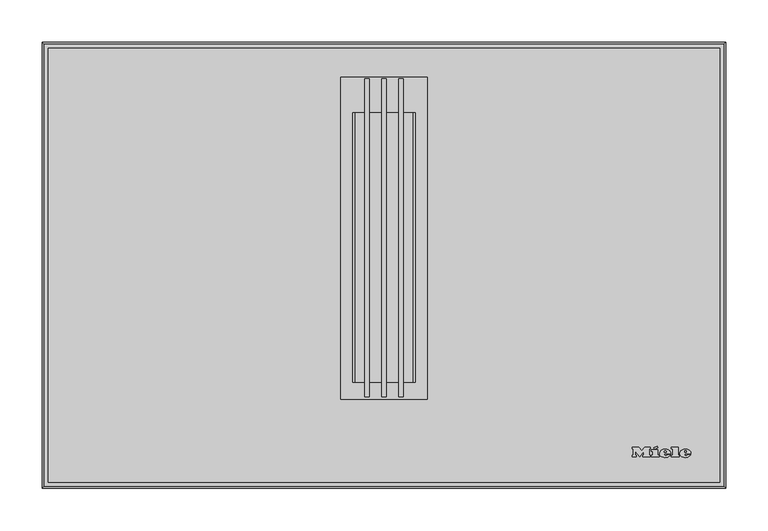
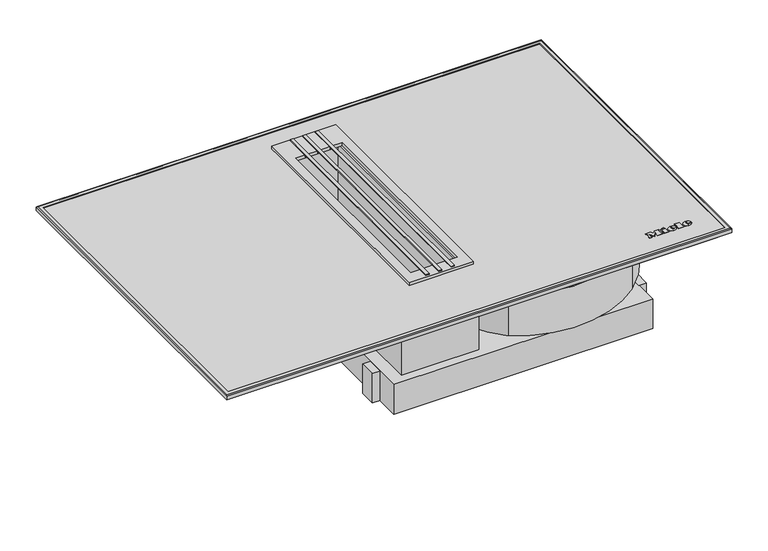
"""IFC4 building model written with IfcOpenShell, lengths in millimetres: proxy geometry, 11325850_RU_KMDA7633FR : 26763301_RU_11325850_KMDA7633FR."""

import ifcopenshell
import ifcopenshell.guid

model = None  # the IFC model being written
_history = None  # IfcOwnerHistory: only IFC2X3 demands one
_inside = {}  # id of a spatial element -> (the spatial element, [elements in it])
_under = {}  # id of a project, library or spatial element -> (it, [spatial elements below it])
_declared = {}  # id of a project -> (the project, [libraries it declares])
_typed = {}  # id of a type object -> (the type object, [elements of that type])
_made_of = {}  # id of a material, layer set ... -> (it, [elements and type objects made of it])


def new_model(schema):
    """Start an empty IFC model of exactly this schema.

    Asked for "IFC4X3", IfcOpenShell would pick the latest addendum, in which some entities
    have other attributes; the version numbers below select the first issue.
    IFC2X3 requires an IfcOwnerHistory on every rooted entity: one is made here for all.
    """
    global model, _history
    if schema == "IFC4X3":
        model = ifcopenshell.file(schema_version=(4, 3, 0, 0))
    else:
        model = ifcopenshell.file(schema=schema)
    _inside.clear()
    _under.clear()
    _declared.clear()
    _typed.clear()
    _made_of.clear()
    _history = None
    if model.schema == "IFC2X3":
        org = make("IfcOrganization", Name="unknown")
        user = make(
            "IfcPersonAndOrganization",
            ThePerson=make("IfcPerson", FamilyName="unknown"),
            TheOrganization=org,
        )
        app = make(
            "IfcApplication",
            ApplicationDeveloper=org,
            Version="unknown",
            ApplicationFullName="unknown",
            ApplicationIdentifier="unknown",
        )
        _history = make(
            "IfcOwnerHistory",
            OwningUser=user,
            OwningApplication=app,
            ChangeAction="ADDED",
            CreationDate=0,
        )
    return model


def make(cls, **values):
    """One entity of the class cls with the attributes given. An attribute that is None is left unset."""
    return model.create_entity(
        cls, **{name: value for name, value in values.items() if value is not None}
    )


def rooted(cls, **values):
    """An entity with a GlobalId (a new one), such as an element, a storey or a relation."""
    return make(cls, GlobalId=ifcopenshell.guid.new(), OwnerHistory=_history, **values)


def si_unit(unit_type, name, prefix=None):
    """IfcSIUnit, for example si_unit("LENGTHUNIT", "METRE", prefix="MILLI")."""
    return make("IfcSIUnit", UnitType=unit_type, Prefix=prefix, Name=name)


def assignment(units):
    """IfcUnitAssignment: the units of a project."""
    return None if units is None else make("IfcUnitAssignment", Units=units)


def point(xyz):
    """IfcCartesianPoint."""
    return None if xyz is None else make("IfcCartesianPoint", Coordinates=xyz)


def direction(xyz):
    """IfcDirection."""
    return None if xyz is None else make("IfcDirection", DirectionRatios=xyz)


def frame(location, z_axis=None, x_axis=None):
    """IfcAxis2Placement3D, a coordinate frame: its origin and axes. An axis left out is left unset."""
    return make(
        "IfcAxis2Placement3D",
        Location=point(location),
        Axis=direction(z_axis),
        RefDirection=direction(x_axis),
    )


def frame_2d(location, x_axis=None):
    """IfcAxis2Placement2D, a coordinate frame in the plane: its origin and x axis."""
    return make(
        "IfcAxis2Placement2D", Location=point(location), RefDirection=direction(x_axis)
    )


def origin():
    """The frame at (0, 0, 0) with its axes left unset."""
    return frame((0.0, 0.0, 0.0))


def origin_with_axes():
    """The frame at (0, 0, 0) with the z axis (0, 0, 1) and the x axis (1, 0, 0) written out."""
    return frame((0.0, 0.0, 0.0), z_axis=(0.0, 0.0, 1.0), x_axis=(1.0, 0.0, 0.0))


def place(relative_to, where):
    """IfcLocalPlacement: puts the frame where relative to a parent placement (None: the world)."""
    return make(
        "IfcLocalPlacement", PlacementRelTo=relative_to, RelativePlacement=where
    )


def context(
    kind, dimensions, precision=None, world=None, true_north=None, identifier=None
):
    """IfcGeometricRepresentationContext, for example the 3D "Model" context."""
    return make(
        "IfcGeometricRepresentationContext",
        ContextIdentifier=identifier,
        ContextType=kind,
        CoordinateSpaceDimension=dimensions,
        Precision=precision,
        WorldCoordinateSystem=world,
        TrueNorth=true_north,
    )


def project(units=None, contexts=None):
    """IfcProject with its units and contexts."""
    return rooted(
        "IfcProject",
        Name="project",
        RepresentationContexts=contexts,
        UnitsInContext=assignment(units),
    )


def spatial(cls, under=None, at=None, **own):
    """A site, building, storey or space (cls), placed at a placement, below another one or the project."""
    s = rooted(cls, ObjectPlacement=at, **own)
    if under is not None:
        _under.setdefault(under.id(), (under, []))[1].append(s)
    return s


def polyline(points):
    """IfcPolyline through the points."""
    return make("IfcPolyline", Points=[point(p) for p in points])


def circle_curve(where, radius):
    """IfcCircle in the frame where."""
    return make("IfcCircle", Position=where, Radius=radius)


def ellipse_curve(where, semi_axis1, semi_axis2):
    """IfcEllipse in the frame where."""
    return make(
        "IfcEllipse", Position=where, SemiAxis1=semi_axis1, SemiAxis2=semi_axis2
    )


def trimmed(basis, trim1, trim2, sense, master):
    """IfcTrimmedCurve: the piece of a basis curve between two trims."""
    return make(
        "IfcTrimmedCurve",
        BasisCurve=basis,
        Trim1=trim1,
        Trim2=trim2,
        SenseAgreement=sense,
        MasterRepresentation=master,
    )


def segment(curve, same_sense, transition):
    """IfcCompositeCurveSegment."""
    return make(
        "IfcCompositeCurveSegment",
        Transition=transition,
        SameSense=same_sense,
        ParentCurve=curve,
    )


def composite_curve(segments, self_intersect=None):
    """IfcCompositeCurve: segments joined end to end."""
    return make("IfcCompositeCurve", Segments=segments, SelfIntersect=self_intersect)


def outline(outer, holes=None, kind="AREA"):
    """IfcArbitraryClosedProfileDef: a profile drawn as a closed curve; with holes, ...WithVoids."""
    if holes is None:
        return make("IfcArbitraryClosedProfileDef", ProfileType=kind, OuterCurve=outer)
    return make(
        "IfcArbitraryProfileDefWithVoids",
        ProfileType=kind,
        OuterCurve=outer,
        InnerCurves=holes,
    )


def extrude(swept, where, along, depth):
    """IfcExtrudedAreaSolid: the profile swept, set in the frame where, extruded along a direction by depth."""
    return make(
        "IfcExtrudedAreaSolid",
        SweptArea=swept,
        Position=where,
        ExtrudedDirection=direction(along),
        Depth=depth,
    )


def faces_of(points, faces, orient=None, outer=None):
    """IfcFace entities. A face is a list of loops; a loop is a list of indices into points, from 0.

    orient and outer hold one flag for each loop. By default every Orientation is true, the
    first loop of a face is its IfcFaceOuterBound and the others are IfcFaceBound.
    """
    made = []
    for i, loops in enumerate(faces):
        bounds = []
        for j, loop in enumerate(loops):
            is_outer = j == 0 if outer is None else outer[i][j]
            bounds.append(
                make(
                    "IfcFaceOuterBound" if is_outer else "IfcFaceBound",
                    Bound=make("IfcPolyLoop", Polygon=[points[k] for k in loop]),
                    Orientation=True if orient is None else orient[i][j],
                )
            )
        made.append(make("IfcFace", Bounds=bounds))
    return made


def faceted_brep(points, faces, orient=None, outer=None, voids=None):
    """IfcFacetedBrep: a solid bounded by flat faces; with voids (closed shells), ...WithVoids."""
    shared = [point(p) for p in points]
    hull = make("IfcClosedShell", CfsFaces=faces_of(shared, faces, orient, outer))
    if voids is None:
        return make("IfcFacetedBrep", Outer=hull)
    return make(
        "IfcFacetedBrepWithVoids",
        Outer=hull,
        Voids=[
            make(cls, CfsFaces=faces_of(shared, fs, o, b)) for cls, fs, o, b in voids
        ],
    )


def shape(context_of_items, identifier, shape_type, items):
    """IfcShapeRepresentation: the items that make up one representation, for example the "Body"."""
    return make(
        "IfcShapeRepresentation",
        ContextOfItems=context_of_items,
        RepresentationIdentifier=identifier,
        RepresentationType=shape_type,
        Items=items,
    )


def source(mapping_origin, context_of_items, identifier, shape_type, items):
    """IfcRepresentationMap: a shape defined once, which mapped items show again and again."""
    return make(
        "IfcRepresentationMap",
        MappingOrigin=mapping_origin,
        MappedRepresentation=shape(context_of_items, identifier, shape_type, items),
    )


def transform(
    local_origin,
    x_axis=None,
    y_axis=None,
    z_axis=None,
    scale=None,
    scale2=None,
    scale3=None,
    uniform=True,
):
    """IfcCartesianTransformationOperator3D, or its non-uniform kind. x_axis, y_axis, z_axis: its Axis1, 2, 3."""
    if uniform:
        return make(
            "IfcCartesianTransformationOperator3D",
            Axis1=direction(x_axis),
            Axis2=direction(y_axis),
            LocalOrigin=point(local_origin),
            Scale=scale,
            Axis3=direction(z_axis),
        )
    return make(
        "IfcCartesianTransformationOperator3DnonUniform",
        Axis1=direction(x_axis),
        Axis2=direction(y_axis),
        LocalOrigin=point(local_origin),
        Scale=scale,
        Axis3=direction(z_axis),
        Scale2=scale2,
        Scale3=scale3,
    )


def mapped(mapping_source, mapping_target):
    """IfcMappedItem: shows the shape of a source again, moved by a transform."""
    return make(
        "IfcMappedItem", MappingSource=mapping_source, MappingTarget=mapping_target
    )


def made_of(thing, what):
    """Note that an element or type object is made of a material, layer set ...; save() writes the relation."""
    if what is not None:
        _made_of.setdefault(what.id(), (what, []))[1].append(thing)
    return thing


def element(
    cls,
    number,
    at=None,
    inside=None,
    cuts=None,
    type_object=None,
    material=None,
    context=None,
    identifier="Body",
    shape_type=None,
    held_by="IfcProductDefinitionShape",
    body=None,
    shapes=None,
    **own,
):
    """One element of the class cls, such as IfcWall. Its Tag is "e" and its number.

    at: its placement. inside: the storey or other place that contains it. cuts: it is an
    opening in that element (IfcRelVoidsElement). A single representation is given by context,
    identifier, shape_type and body (its items); several are given by shapes. held_by: the class
    of the entity that holds the representations. save() writes the other relations.
    """
    e = rooted(cls, Tag="e%d" % number, ObjectPlacement=at, **own)
    if body is not None:
        shapes = [shape(context, identifier, shape_type, body)]
    if shapes is not None:
        e.Representation = make(held_by, Representations=shapes)
    if inside is not None:
        _inside.setdefault(inside.id(), (inside, []))[1].append(e)
    if cuts is not None:
        rooted(
            "IfcRelVoidsElement", RelatingBuildingElement=cuts, RelatedOpeningElement=e
        )
    if type_object is not None:
        _typed.setdefault(type_object.id(), (type_object, []))[1].append(e)
    return made_of(e, material)


def aggregate(whole, parts):
    """IfcRelAggregates: a whole, such as a stair, and the parts it consists of."""
    return rooted("IfcRelAggregates", RelatingObject=whole, RelatedObjects=parts)


def save(model, path):
    """Write the relations noted so far, then the file.

    IfcRelAggregates (storeys below a building ...), IfcRelContainedInSpatialStructure (elements
    in a storey), IfcRelDefinesByType, IfcRelAssociatesMaterial and IfcRelDeclares: one each for
    every whole, place, type object, material and project.
    """
    for whole, parts in _under.values():
        aggregate(whole, parts)
    for where, things in _inside.values():
        rooted(
            "IfcRelContainedInSpatialStructure",
            RelatedElements=things,
            RelatingStructure=where,
        )
    for kind, things in _typed.values():
        rooted("IfcRelDefinesByType", RelatedObjects=things, RelatingType=kind)
    for what, things in _made_of.values():
        rooted("IfcRelAssociatesMaterial", RelatedObjects=things, RelatingMaterial=what)
    for by, libraries in _declared.values():
        rooted("IfcRelDeclares", RelatingContext=by, RelatedDefinitions=libraries)
    model.write(path)


def plane_surface(at):
    """IfcPlane: the flat surface through the origin of the frame at, square to its z axis."""
    return make("IfcPlane", Position=at)


def cylinder_surface(at, radius):
    """IfcCylindricalSurface: all points at the distance radius from the z axis of the frame at."""
    return make("IfcCylindricalSurface", Position=at, Radius=radius)


def revolved_surface(curve, axis_point, axis_direction):
    """IfcSurfaceOfRevolution: the curve turned about the line through axis_point along axis_direction."""
    return make(
        "IfcSurfaceOfRevolution",
        SweptCurve=make("IfcArbitraryOpenProfileDef", ProfileType="CURVE", Curve=curve),
        AxisPosition=make("IfcAxis1Placement", Location=point(axis_point), Axis=direction(axis_direction)),
    )


def extruded_surface(curve, direction_of_extrusion, depth):
    """IfcSurfaceOfLinearExtrusion: the curve pushed along a direction by depth."""
    return make(
        "IfcSurfaceOfLinearExtrusion",
        SweptCurve=make("IfcArbitraryOpenProfileDef", ProfileType="CURVE", Curve=curve),
        ExtrudedDirection=direction(direction_of_extrusion),
        Depth=depth,
    )


def advanced_brep(points, edges, surfaces, faces):
    """IfcAdvancedBrep: a solid bounded by faces that lie on surfaces and meet in shared edges.

    An edge is (start, end): straight between two places in points (the first is 0);
    or (start, end, curve); or (start, end, curve, False) where it runs against its curve.
    A face is (place in surfaces, loops), or (place, loops, False) where it looks against
    its surface's normal. A loop lists edges by number (the first is 1), with a minus sign
    where the edge is run from its end to its start. The first loop is the outer one.
    """
    corners = [point(p) for p in points]
    vertices = [make("IfcVertexPoint", VertexGeometry=c) for c in corners]
    made = []
    for start, end, *more in edges:
        made.append(
            make(
                "IfcEdgeCurve",
                EdgeStart=vertices[start],
                EdgeEnd=vertices[end],
                EdgeGeometry=more[0] if more else make("IfcPolyline", Points=[corners[start], corners[end]]),
                SameSense=more[1] if len(more) > 1 else True,
            )
        )
    hull = []
    for where, loops, *sense in faces:
        bounds = []
        for j, loop in enumerate(loops):
            ring = [make("IfcOrientedEdge", EdgeElement=made[abs(k) - 1], Orientation=k > 0) for k in loop]
            bounds.append(
                make(
                    "IfcFaceOuterBound" if j == 0 else "IfcFaceBound",
                    Bound=make("IfcEdgeLoop", EdgeList=ring),
                    Orientation=True,
                )
            )
        hull.append(make("IfcAdvancedFace", Bounds=bounds, FaceSurface=surfaces[where], SameSense=sense[0] if sense else True))
    return make("IfcAdvancedBrep", Outer=make("IfcClosedShell", CfsFaces=hull))


def specialty_equipment_09bc2874(model_context):
    return source(origin(), model_context, "Body", "SolidModel", [
        extrude(outline(polyline([(343.0, 159.0), (343.0, 132.0), (331.0, 132.0), (331.0, 159.0), (343.0, 159.0)])), frame((0.0, 0.0, -194.0), z_axis=(0.0, 0.0, 1.0), x_axis=(1.0, 0.0, 0.0)), (0.0, 0.0, 1.0), 50.0),
        extrude(outline(polyline([(343.0, 299.0), (343.0, 272.0), (331.0, 272.0), (331.0, 299.0), (343.0, 299.0)])), frame((0.0, 0.0, -194.0), z_axis=(0.0, 0.0, 1.0), x_axis=(1.0, 0.0, 0.0)), (0.0, 0.0, 1.0), 50.0),
        extrude(outline(polyline([(-94.0, 132.0), (-94.0, 159.0), (-82.0, 159.0), (-82.0, 132.0), (-94.0, 132.0)])), frame((0.0, 0.0, -194.0), z_axis=(0.0, 0.0, 1.0), x_axis=(1.0, 0.0, 0.0)), (0.0, 0.0, 1.0), 50.0),
        extrude(outline(polyline([(-94.0, 412.0), (-94.0, 439.0), (-82.0, 439.0), (-82.0, 412.0), (-94.0, 412.0)])), frame((0.0, 0.0, -194.0), z_axis=(0.0, 0.0, 1.0), x_axis=(1.0, 0.0, 0.0)), (0.0, 0.0, 1.0), 50.0),
        extrude(outline(composite_curve([segment(trimmed(circle_curve(frame_2d((196.0, 245.0)), 72.0), [point((196.0, 317.0))], [point((196.0, 173.0))], False, "CARTESIAN"), True, "CONTINUOUS"), segment(trimmed(circle_curve(frame_2d((196.0, 245.0)), 72.0), [point((196.0, 173.0))], [point((196.0, 317.0))], False, "CARTESIAN"), True, "CONTINUOUS")], self_intersect=False)), frame((0.0, 0.0, -74.0), z_axis=(0.0, 0.0, 1.0), x_axis=(1.0, 0.0, 0.0)), (0.0, 0.0, 1.0), 24.0),
        advanced_brep(
        [(362.0, 410.0, -54.0), (143.0, 410.0, -54.0), (143.0, 358.416101, -54.0), (362.0, 358.416101, -54.0), (362.0, 410.0, -144.0), (362.0, 348.2375968, -144.0), (381.237223, 285.0, -144.0), (318.5220822, 129.2089937, -144.0), (114.432033, 116.6773214, -144.0), (74.0661338, 285.0, -144.0), (143.0, 355.5833055, -144.0), (143.0, 410.0, -144.0), (362.0, 348.2375968, -56.7728261), (74.0661338, 285.0, -74.0), (143.0, 355.5833055, -54.7717096), (358.0, 410.0, -58.5), (146.0, 410.0, -58.5), (146.0, 410.0, -139.5), (358.0, 410.0, -139.5), (136.1334818, 285.0, -74.0), (196.0, 317.0, -65.2825662), (255.8665182, 285.0, -74.0), (381.237223, 285.0, -74.0), (318.5220822, 129.2089937, -74.0), (114.432033, 116.6773214, -74.0), (146.0, 358.416101, -58.5), (358.0, 358.416101, -58.5), (358.0, 358.416101, -139.5), (146.0, 358.416101, -139.5), (196.0, 317.0, -74.0)],
        [
            (0, 1),
            (1, 2),
            (2, 3),
            (3, 0),
            (4, 5),
            (5, 6, circle_curve(frame((204.2850014, 265.7149986, -144.0), z_axis=(0.0, 0.0, -1.0), x_axis=(0.0, -1.0, 0.0)), 178.0)),
            (6, 7, circle_curve(frame((204.2850014, 265.7149986, -144.0), z_axis=(0.0, 0.0, -1.0), x_axis=(0.0, -1.0, 0.0)), 178.0)),
            (7, 8, circle_curve(frame((208.0, 261.0, -144.0), z_axis=(0.0, 0.0, -1.0), x_axis=(0.0, -1.0, 0.0)), 172.0)),
            (8, 9, circle_curve(frame((211.159576, 228.8752699, -144.0), z_axis=(0.0, 0.0, -1.0), x_axis=(0.0, -1.0, 0.0)), 148.1370893)),
            (9, 10, circle_curve(frame((199.9612769, 231.0, -144.0), z_axis=(0.0, 0.0, -1.0), x_axis=(0.0, -1.0, 0.0)), 136.9875435)),
            (10, 11),
            (11, 4),
            (4, 0),
            (3, 12),
            (12, 5),
            (9, 13),
            (13, 14, ellipse_curve(frame((199.9612769, 231.0, -88.7106695), z_axis=(0.0, 0.26284127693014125, -0.9648390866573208), x_axis=(0.0, -0.9648390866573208, -0.26284127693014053)), 141.9796787, 136.9875435)),
            (14, 10),
            (14, 2),
            (1, 11),
            (15, 16),
            (16, 17),
            (17, 18),
            (18, 15),
            (13, 19),
            (19, 20, ellipse_curve(frame((196.0, 245.0, -84.8967922), z_axis=(0.0, 0.26284127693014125, -0.9648390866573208), x_axis=(0.0, -0.9648390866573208, -0.26284127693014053)), 74.6238425, 72.0)),
            (20, 21, ellipse_curve(frame((196.0, 245.0, -84.8967922), z_axis=(0.0, 0.26284127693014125, -0.9648390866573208), x_axis=(0.0, -0.9648390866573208, -0.26284127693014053)), 74.6238425, 72.0)),
            (21, 22),
            (22, 12, ellipse_curve(frame((204.2850014, 265.7149986, -79.2536163), z_axis=(0.0, -0.26284127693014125, 0.9648390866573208), x_axis=(0.0, -0.9648390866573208, -0.26284127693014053)), 184.4867216, 178.0)),
            (7, 23),
            (23, 24, circle_curve(frame((208.0, 261.0, -74.0), z_axis=(0.0, 0.0, -1.0), x_axis=(0.0, -1.0, 0.0)), 172.0)),
            (24, 8),
            (24, 13, circle_curve(frame((211.159576, 228.8752699, -74.0), z_axis=(0.0, 0.0, -1.0), x_axis=(0.0, -1.0, 0.0)), 148.1370893)),
            (6, 22),
            (22, 23, circle_curve(frame((204.2850014, 265.7149986, -74.0), z_axis=(0.0, 0.0, -1.0), x_axis=(0.0, -1.0, 0.0)), 178.0)),
            (25, 26),
            (26, 27),
            (27, 28),
            (28, 25),
            (25, 16),
            (15, 26),
            (18, 27),
            (17, 28),
            (21, 29, circle_curve(frame((196.0, 245.0, -74.0), z_axis=(0.0, 0.0, 1.0), x_axis=(0.0, -1.0, 0.0)), 72.0)),
            (29, 19, circle_curve(frame((196.0, 245.0, -74.0), z_axis=(0.0, 0.0, 1.0), x_axis=(0.0, -1.0, 0.0)), 72.0)),
            (20, 29),
        ],
        [
            plane_surface(frame((362.0, 410.0, -54.0), z_axis=(0.0, 0.0, 1.0), x_axis=(0.0, 1.0, 0.0))),
            plane_surface(frame((362.0, 410.0, -144.0), z_axis=(0.0, 0.0, -1.0), x_axis=(0.0, -1.0, 0.0))),
            plane_surface(frame((362.0, 410.0, -144.0), z_axis=(1.0, 0.0, 0.0), x_axis=(0.0, 0.0, 1.0))),
            cylinder_surface(frame((199.9612769, 231.0, -54.0), z_axis=(0.0, 0.0, -1.0), x_axis=(0.0, -1.0, 0.0)), 136.9875435),
            plane_surface(frame((143.0, 355.5833055, -144.0), z_axis=(-1.0, 0.0, 0.0), x_axis=(0.0, 0.0, 1.0))),
            plane_surface(frame((143.0, 410.0, -144.0), z_axis=(0.0, 1.0, 0.0), x_axis=(0.0, 0.0, 1.0))),
            plane_surface(frame((-37.9480961, 358.416101, -54.0), z_axis=(0.0, -0.26284127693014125, 0.9648390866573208), x_axis=(1.0, 0.0, 0.0))),
            cylinder_surface(frame((208.0, 261.0, -74.0), z_axis=(0.0, 0.0, -1.0), x_axis=(0.0, -1.0, 0.0)), 172.0),
            cylinder_surface(frame((211.159576, 228.8752699, -74.0), z_axis=(0.0, 0.0, -1.0), x_axis=(0.0, -1.0, 0.0)), 148.1370893),
            cylinder_surface(frame((204.2850014, 265.7149986, -74.0), z_axis=(0.0, 0.0, -1.0), x_axis=(0.0, -1.0, 0.0)), 178.0),
            plane_surface(frame((358.0, 358.416101, -58.5), z_axis=(0.0, 1.0, 0.0), x_axis=(-1.0, 0.0, 0.0))),
            plane_surface(frame((146.0, 410.0, -58.5), z_axis=(0.0, 0.0, -1.0), x_axis=(0.0, -1.0, 0.0))),
            plane_surface(frame((358.0, 410.0, -58.5), z_axis=(-1.0, 0.0, 0.0), x_axis=(0.0, -1.0, 0.0))),
            plane_surface(frame((358.0, 410.0, -139.5), z_axis=(0.0, 0.0, 1.0), x_axis=(0.0, -1.0, 0.0))),
            plane_surface(frame((146.0, 410.0, -139.5), z_axis=(1.0, 0.0, 0.0), x_axis=(0.0, -1.0, 0.0))),
            cylinder_surface(frame((204.2850014, 265.7149986, -54.0), z_axis=(0.0, 0.0, -1.0), x_axis=(0.0, -1.0, 0.0)), 178.0),
            plane_surface(frame((196.0, 173.0, -74.0), z_axis=(0.0, 0.0, 1.0), x_axis=(-1.0, 0.0, 0.0))),
            revolved_surface(polyline([(196.0, 173.0, -104.51101825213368), (196.0, 173.0, -65.2825661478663)]), (196.0, 245.0, -59.0), (0.0, 0.0, -1.0)),
        ],
        [
            (0, [[1, 2, 3, 4]]),
            (1, [[5, 6, 7, 8, 9, 10, 11, 12]]),
            (2, [[-5, 13, -4, 14, 15]]),
            (3, [[-10, 16, 17, 18]]),
            (4, [[-11, -18, 19, -2, 20]]),
            (5, [[-1, -13, -12, -20], [21, 22, 23, 24]]),
            (6, [[-3, -19, -17, 25, 26, 27, 28, 29, -14]]),
            (7, [[-8, 30, 31, 32]]),
            (8, [[-9, -32, 33, -16]]),
            (9, [[-7, 34, 35, -30]]),
            (10, [[36, 37, 38, 39]]),
            (11, [[-36, 40, -21, 41]]),
            (12, [[-37, -41, -24, 42]]),
            (13, [[-38, -42, -23, 43]]),
            (14, [[-39, -43, -22, -40]]),
            (15, [[-6, -15, -29, -34]]),
            (16, [[44, 45, -25, -33, -31, -35, -28]]),
            (17, [[-44, -27, 46]]),
            (17, [[-45, -46, -26]]),
        ],
    ),
        faceted_brep([(51.0, 485.0, 11.0), (-51.0, 485.0, 11.0), (-51.0, 105.0, 11.0), (51.0, 105.0, 11.0), (37.0, 443.0, 11.0), (37.0, 125.0, 11.0), (22.5, 125.0, 11.0), (22.5, 108.0, 11.0), (17.5, 108.0, 11.0), (17.5, 125.0, 11.0), (2.5, 125.0, 11.0), (2.5, 108.0, 11.0), (-2.5, 108.0, 11.0), (-2.5, 125.0, 11.0), (-17.5, 125.0, 11.0), (-17.5, 108.0, 11.0), (-22.5, 108.0, 11.0), (-22.5, 125.0, 11.0), (-37.0, 125.0, 11.0), (-37.0, 443.0, 11.0), (-22.5, 443.0, 11.0), (-22.5, 483.0, 11.0), (-17.5, 483.0, 11.0), (-17.5, 443.0, 11.0), (-2.5, 443.0, 11.0), (-2.5, 483.0, 11.0), (2.5, 483.0, 11.0), (2.5, 443.0, 11.0), (17.5, 443.0, 11.0), (17.5, 483.0, 11.0), (22.5, 483.0, 11.0), (22.5, 443.0, 11.0), (51.0, 485.0, 6.0), (51.0, 105.0, 6.0), (-51.0, 105.0, 6.0), (-51.0, 485.0, 6.0), (37.0, 443.0, 6.0), (-37.0, 443.0, 6.0), (-37.0, 125.0, 6.0), (37.0, 125.0, 6.0), (-22.5, 125.0, 6.5), (-17.5, 125.0, 6.5), (-2.5, 125.0, 6.5), (2.5, 125.0, 6.5), (17.5, 125.0, 6.5), (22.5, 125.0, 6.5), (22.5, 443.0, 6.5), (17.5, 443.0, 6.5), (2.5, 443.0, 6.5), (-2.5, 443.0, 6.5), (-17.5, 443.0, 6.5), (-22.5, 443.0, 6.5), (2.5, 483.0, 6.5), (-2.5, 483.0, 6.5), (-2.5, 108.0, 6.5), (2.5, 108.0, 6.5), (-17.5, 483.0, 6.5), (-22.5, 483.0, 6.5), (-22.5, 108.0, 6.5), (-17.5, 108.0, 6.5), (22.5, 483.0, 6.5), (17.5, 483.0, 6.5), (17.5, 108.0, 6.5), (22.5, 108.0, 6.5)], [[[0, 1, 2, 3], [4, 5, 6, 7, 8, 9, 10, 11, 12, 13, 14, 15, 16, 17, 18, 19, 20, 21, 22, 23, 24, 25, 26, 27, 28, 29, 30, 31]], [[32, 33, 34, 35], [36, 37, 38, 39]], [[1, 0, 32, 35]], [[2, 1, 35, 34]], [[3, 2, 34, 33]], [[0, 3, 33, 32]], [[5, 4, 36, 39]], [[39, 38, 18, 17, 40, 41, 14, 13, 42, 43, 10, 9, 44, 45, 6, 5]], [[19, 18, 38, 37]], [[37, 36, 4, 31, 46, 47, 28, 27, 48, 49, 24, 23, 50, 51, 20, 19]], [[52, 53, 49, 48]], [[54, 55, 43, 42]], [[56, 57, 51, 50]], [[58, 59, 41, 40]], [[60, 61, 47, 46]], [[62, 63, 45, 44]], [[53, 52, 26, 25]], [[53, 25, 24, 49]], [[12, 54, 42, 13]], [[55, 54, 12, 11]], [[26, 52, 48, 27]], [[55, 11, 10, 43]], [[57, 56, 22, 21]], [[57, 21, 20, 51]], [[16, 58, 40, 17]], [[59, 58, 16, 15]], [[22, 56, 50, 23]], [[59, 15, 14, 41]], [[61, 60, 30, 29]], [[61, 29, 28, 47]], [[8, 62, 44, 9]], [[63, 62, 8, 7]], [[30, 60, 46, 31]], [[63, 7, 6, 45]]]),
        extrude(outline(polyline([(2.5, 483.0), (2.5, 108.0), (-2.5, 108.0), (-2.5, 483.0), (2.5, 483.0)])), frame((0.0, 0.0, 11.0), z_axis=(0.0, 0.0, 1.0), x_axis=(1.0, 0.0, 0.0)), (0.0, 0.0, 1.0), 1.5),
        extrude(outline(polyline([(-17.5, 483.0), (-17.5, 108.0), (-22.5, 108.0), (-22.5, 483.0), (-17.5, 483.0)])), frame((0.0, 0.0, 11.0), z_axis=(0.0, 0.0, 1.0), x_axis=(1.0, 0.0, 0.0)), (0.0, 0.0, 1.0), 1.5),
        extrude(outline(polyline([(22.5, 483.0), (22.5, 108.0), (17.5, 108.0), (17.5, 483.0), (22.5, 483.0)])), frame((0.0, 0.0, 11.0), z_axis=(0.0, 0.0, 1.0), x_axis=(1.0, 0.0, 0.0)), (0.0, 0.0, 1.0), 1.5),
        extrude(outline(composite_curve([segment(trimmed(circle_curve(frame_2d((-34.0, 449.5)), 8.0), [point((-42.0, 449.5))], [point((-34.0, 457.5))], False, "CARTESIAN"), True, "CONTINUOUS"), segment(polyline([(-34.0, 457.5), (34.0, 457.5)]), True, "CONTINUOUS"), segment(trimmed(circle_curve(frame_2d((34.0, 449.5)), 8.0), [point((34.0, 457.5))], [point((42.0, 449.5))], False, "CARTESIAN"), True, "CONTINUOUS"), segment(polyline([(42.0, 449.5), (42.0, 120.5)]), True, "CONTINUOUS"), segment(trimmed(circle_curve(frame_2d((34.0, 120.5)), 8.0), [point((42.0, 120.5))], [point((34.0, 112.5))], False, "CARTESIAN"), True, "CONTINUOUS"), segment(polyline([(34.0, 112.5), (-34.0, 112.5)]), True, "CONTINUOUS"), segment(trimmed(circle_curve(frame_2d((-34.0, 120.5)), 8.0), [point((-34.0, 112.5))], [point((-42.0, 120.5))], False, "CARTESIAN"), True, "CONTINUOUS"), segment(polyline([(-42.0, 120.5), (-42.0, 449.5)]), True, "CONTINUOUS")], self_intersect=False), holes=[polyline([(-34.0, 449.5), (-34.0, 120.5), (34.0, 120.5), (34.0, 449.5), (-34.0, 449.5)])]), frame((0.0, 0.0, -144.0), z_axis=(0.0, 0.0, 1.0), x_axis=(1.0, 0.0, 0.0)), (0.0, 0.0, 1.0), 150.0),
        extrude(outline(polyline([(-82.0, 94.0), (-82.0, 477.0), (62.0, 477.0), (331.0, 337.0), (331.0, 94.0), (-82.0, 94.0)])), frame((0.0, 0.0, -194.0), z_axis=(0.0, 0.0, 1.0), x_axis=(1.0, 0.0, 0.0)), (0.0, 0.0, 1.0), 50.0),
        faceted_brep([(-62.0, 462.0, -47.0), (-62.0, 462.0, -141.0), (128.0, 462.0, -141.0), (128.0, 462.0, -47.0), (128.0, 498.0, -47.0), (128.0, 498.0, -141.0), (-62.0, 498.0, -141.0), (-62.0, 498.0, -47.0), (-151.0, 498.0, -47.0), (-151.0, 498.0, -12.0), (151.0, 498.0, -12.0), (151.0, 498.0, -47.0), (128.0, 471.0, -47.0), (-62.0, 471.0, -47.0), (-151.0, 471.0, -12.0), (-151.0, 471.0, -47.0), (151.0, 471.0, -47.0), (151.0, 471.0, -12.0)], [[[0, 1, 2, 3]], [[4, 5, 6, 7, 8, 9, 10, 11]], [[0, 3, 12, 13]], [[3, 2, 5, 4, 12]], [[2, 1, 6, 5]], [[1, 0, 13, 7, 6]], [[14, 15, 13, 12, 16, 17]], [[14, 17, 10, 9]], [[17, 16, 11, 10]], [[11, 16, 12, 4]], [[15, 8, 7, 13]], [[15, 14, 9, 8]]]),
        extrude(outline(polyline([(388.5, 511.5), (388.5, 14.5), (-388.5, 14.5), (-388.5, 511.5), (388.5, 511.5)]), holes=[composite_curve([segment(polyline([(36.0, 461.0), (-36.0, 461.0)]), True, "CONTINUOUS"), segment(trimmed(circle_curve(frame_2d((-36.0, 451.0)), 10.0), [point((-36.0, 461.0))], [point((-46.0, 451.0))], True, "CARTESIAN"), True, "CONTINUOUS"), segment(polyline([(-46.0, 451.0), (-46.0, 119.0)]), True, "CONTINUOUS"), segment(trimmed(circle_curve(frame_2d((-36.0, 119.0)), 10.0), [point((-46.0, 119.0))], [point((-36.0, 109.0))], True, "CARTESIAN"), True, "CONTINUOUS"), segment(polyline([(-36.0, 109.0), (36.0, 109.0)]), True, "CONTINUOUS"), segment(trimmed(circle_curve(frame_2d((36.0, 119.0)), 10.0), [point((36.0, 109.0))], [point((46.0, 119.0))], True, "CARTESIAN"), True, "CONTINUOUS"), segment(polyline([(46.0, 119.0), (46.0, 451.0)]), True, "CONTINUOUS"), segment(trimmed(circle_curve(frame_2d((36.0, 451.0)), 10.0), [point((46.0, 451.0))], [point((36.0, 461.0))], True, "CARTESIAN"), True, "CONTINUOUS")], self_intersect=False)]), frame((0.0, 0.0, -12.0), z_axis=(0.0, 0.0, 1.0), x_axis=(1.0, 0.0, 0.0)), (0.0, 0.0, 1.0), 12.0),
        extrude(outline(polyline([(62.0, 462.0), (62.0, 108.0), (-62.0, 108.0), (-62.0, 462.0), (62.0, 462.0)]), holes=[polyline([(-61.0, 461.0), (-61.0, 109.0), (61.0, 109.0), (61.0, 461.0), (-61.0, 461.0)])]), frame((0.0, 0.0, -144.0), z_axis=(0.0, 0.0, 1.0), x_axis=(1.0, 0.0, 0.0)), (0.0, 0.0, 1.0), 132.0),
        extrude(outline(polyline([(-115.0, 470.0), (-115.0, 442.0), (-75.0, 442.0), (-75.0, 192.0), (-115.0, 192.0), (-115.0, 99.0), (-343.0, 99.0), (-343.0, 470.0), (-115.0, 470.0)])), frame((0.0, 0.0, -44.5), z_axis=(0.0, 0.0, 1.0), x_axis=(1.0, 0.0, 0.0)), (0.0, 0.0, 1.0), 32.5),
        extrude(outline(polyline([(343.0, 470.0), (343.0, 99.0), (115.0, 99.0), (115.0, 470.0), (343.0, 470.0)])), frame((0.0, 0.0, -44.5), z_axis=(0.0, 0.0, 1.0), x_axis=(1.0, 0.0, 0.0)), (0.0, 0.0, 1.0), 32.5),
        advanced_brep(
        [(-403.0, 0.0, 5.4872574), (-403.0, 0.0, 0.0), (403.0, 0.0, 0.0), (403.0, 0.0, 5.4872574), (-401.4872574, 1.5127426, 7.0), (401.4872574, 1.5127426, 7.0), (-396.0, 7.0, 6.0), (-396.0, 7.0, 7.0), (396.0, 7.0, 7.0), (396.0, 7.0, 6.0), (-402.0, 1.0, 5.3), (-401.3, 1.7, 6.0), (401.3, 1.7, 6.0), (402.0, 1.0, 5.3), (-402.0, 1.0, 0.0), (402.0, 1.0, 0.0), (403.0, 526.0, 0.0), (403.0, 526.0, 5.4872574), (401.4872574, 524.4872574, 7.0), (396.0, 519.0, 7.0), (396.0, 519.0, 6.0), (401.3, 524.3, 6.0), (402.0, 525.0, 5.3), (402.0, 525.0, 0.0), (-403.0, 526.0, 0.0), (-403.0, 526.0, 5.4872574), (-401.4872574, 524.4872574, 7.0), (-396.0, 519.0, 7.0), (-396.0, 519.0, 6.0), (-401.3, 524.3, 6.0), (-402.0, 525.0, 5.3), (-402.0, 525.0, 0.0)],
        [
            (0, 1),
            (1, 2),
            (2, 3),
            (3, 0),
            (4, 0, ellipse_curve(frame((-401.4872574, 1.5127426, 5.4872574), z_axis=(0.7071067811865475, -0.7071067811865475, 0.0), x_axis=(-0.7071067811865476, -0.7071067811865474, 0.0)), 2.1393411, 1.5127426)),
            (3, 5, ellipse_curve(frame((401.4872574, 1.5127426, 5.4872574), z_axis=(-0.7071067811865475, -0.7071067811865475, 0.0), x_axis=(-0.7071067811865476, 0.7071067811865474, 0.0)), 2.1393411, 1.5127426)),
            (5, 4),
            (6, 7),
            (7, 8),
            (8, 9),
            (9, 6),
            (10, 11, ellipse_curve(frame((-401.3, 1.7, 5.3), z_axis=(-0.7071067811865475, 0.7071067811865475, 0.0), x_axis=(0.7071067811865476, 0.7071067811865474, 0.0)), 0.9899495, 0.7)),
            (11, 12),
            (12, 13, ellipse_curve(frame((401.3, 1.7, 5.3), z_axis=(0.7071067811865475, 0.7071067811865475, 0.0), x_axis=(0.7071067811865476, -0.7071067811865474, 0.0)), 0.9899495, 0.7)),
            (13, 10),
            (14, 10),
            (13, 15),
            (15, 14),
            (2, 16),
            (16, 17),
            (17, 3),
            (17, 18, ellipse_curve(frame((401.4872574, 524.4872574, 5.4872574), z_axis=(0.7071067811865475, -0.7071067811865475, 0.0), x_axis=(-0.7071067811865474, -0.7071067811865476, 0.0)), 2.1393411, 1.5127426)),
            (18, 5),
            (8, 19),
            (19, 20),
            (20, 9),
            (12, 21),
            (21, 22, ellipse_curve(frame((401.3, 524.3, 5.3), z_axis=(-0.7071067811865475, 0.7071067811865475, 0.0), x_axis=(0.7071067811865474, 0.7071067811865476, 0.0)), 0.9899495, 0.7)),
            (22, 13),
            (22, 23),
            (23, 15),
            (16, 24),
            (24, 25),
            (25, 17),
            (25, 26, ellipse_curve(frame((-401.4872574, 524.4872574, 5.4872574), z_axis=(0.7071067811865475, 0.7071067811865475, 0.0), x_axis=(0.7071067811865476, -0.7071067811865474, 0.0)), 2.1393411, 1.5127426)),
            (26, 18),
            (19, 27),
            (27, 28),
            (28, 20),
            (21, 29),
            (29, 30, ellipse_curve(frame((-401.3, 524.3, 5.3), z_axis=(-0.7071067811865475, -0.7071067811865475, 0.0), x_axis=(-0.7071067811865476, 0.7071067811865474, 0.0)), 0.9899495, 0.7)),
            (30, 22),
            (30, 31),
            (31, 23),
            (24, 1),
            (0, 25),
            (4, 26),
            (7, 27),
            (6, 28),
            (11, 29),
            (10, 30),
            (14, 31),
        ],
        [
            plane_surface(frame((-403.0, 0.0, 0.0), z_axis=(0.0, -1.0, 0.0), x_axis=(1.0, 0.0, 0.0))),
            cylinder_surface(frame((-400.0, 1.5127426, 5.4872574), z_axis=(-1.0, 0.0, 0.0), x_axis=(0.0, 1.0, 0.0)), 1.5127426),
            plane_surface(frame((-396.0, 7.0, 7.0), z_axis=(0.0, 1.0, 0.0), x_axis=(1.0, 0.0, 0.0))),
            revolved_surface(polyline([(402.0000000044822, 2.4, 5.3), (-402.0000000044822, 2.4, 5.3)]), (-400.0, 1.7, 5.3), (1.0, 0.0, 0.0)),
            plane_surface(frame((-402.0, 1.0, 5.3), z_axis=(0.0, 1.0, 0.0), x_axis=(1.0, 0.0, 0.0))),
            plane_surface(frame((403.0, 0.0, 0.0), z_axis=(1.0, 0.0, 0.0), x_axis=(0.0, 1.0, 0.0))),
            cylinder_surface(frame((401.4872574, 3.0, 5.4872574), z_axis=(0.0, -1.0, 0.0), x_axis=(-1.0, 0.0, 0.0)), 1.5127426),
            plane_surface(frame((396.0, 7.0, 7.0), z_axis=(-1.0, 0.0, 0.0), x_axis=(0.0, 1.0, 0.0))),
            revolved_surface(polyline([(400.6, 525.0000000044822, 5.3), (400.6, 0.9999999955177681, 5.3)]), (401.3, 3.0, 5.3), (0.0, 1.0, 0.0)),
            plane_surface(frame((402.0, 1.0, 5.3), z_axis=(-1.0, 0.0, 0.0), x_axis=(0.0, 1.0, 0.0))),
            plane_surface(frame((403.0, 526.0, 0.0), z_axis=(0.0, 1.0, 0.0), x_axis=(-1.0, 0.0, 0.0))),
            cylinder_surface(frame((400.0, 524.4872574, 5.4872574), z_axis=(1.0, 0.0, 0.0), x_axis=(0.0, -1.0, 0.0)), 1.5127426),
            plane_surface(frame((396.0, 519.0, 7.0), z_axis=(0.0, -1.0, 0.0), x_axis=(-1.0, 0.0, 0.0))),
            revolved_surface(polyline([(-402.0000000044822, 523.5999999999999, 5.3), (402.0000000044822, 523.5999999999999, 5.3)]), (400.0, 524.3, 5.3), (-1.0, 0.0, 0.0)),
            plane_surface(frame((402.0, 525.0, 5.3), z_axis=(0.0, -1.0, 0.0), x_axis=(-1.0, 0.0, 0.0))),
            plane_surface(frame((-403.0, 526.0, 0.0), z_axis=(-1.0, 0.0, 0.0), x_axis=(0.0, -1.0, 0.0))),
            cylinder_surface(frame((-401.4872574, 523.0, 5.4872574), z_axis=(0.0, 1.0, 0.0), x_axis=(1.0, 0.0, 0.0)), 1.5127426),
            plane_surface(frame((-401.4872574, 524.4872574, 7.0), z_axis=(0.0, 0.0, 1.0), x_axis=(0.0, -1.0, 0.0))),
            plane_surface(frame((-396.0, 519.0, 7.0), z_axis=(1.0, 0.0, 0.0), x_axis=(0.0, -1.0, 0.0))),
            plane_surface(frame((-396.0, 519.0, 6.0), z_axis=(0.0, 0.0, -1.0), x_axis=(0.0, -1.0, 0.0))),
            revolved_surface(polyline([(-400.6, 0.9999999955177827, 5.3), (-400.6, 525.0000000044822, 5.3)]), (-401.3, 523.0, 5.3), (0.0, -1.0, 0.0)),
            plane_surface(frame((-402.0, 525.0, 5.3), z_axis=(1.0, 0.0, 0.0), x_axis=(0.0, -1.0, 0.0))),
            plane_surface(frame((-402.0, 525.0, 0.0), z_axis=(0.0, 0.0, -1.0), x_axis=(0.0, -1.0, 0.0))),
        ],
        [
            (0, [[1, 2, 3, 4]]),
            (1, [[5, -4, 6, 7]]),
            (2, [[8, 9, 10, 11]]),
            (3, [[12, 13, 14, 15]]),
            (4, [[16, -15, 17, 18]]),
            (5, [[-3, 19, 20, 21]]),
            (6, [[-6, -21, 22, 23]]),
            (7, [[-10, 24, 25, 26]]),
            (8, [[-14, 27, 28, 29]]),
            (9, [[-17, -29, 30, 31]]),
            (10, [[-20, 32, 33, 34]]),
            (11, [[-22, -34, 35, 36]]),
            (12, [[-25, 37, 38, 39]]),
            (13, [[-28, 40, 41, 42]]),
            (14, [[-30, -42, 43, 44]]),
            (15, [[-33, 45, -1, 46]]),
            (16, [[-35, -46, -5, 47]]),
            (17, [[-23, -36, -47, -7], [48, -37, -24, -9]]),
            (18, [[-38, -48, -8, 49]]),
            (19, [[50, -40, -27, -13], [-26, -39, -49, -11]]),
            (20, [[-41, -50, -12, 51]]),
            (21, [[-43, -51, -16, 52]]),
            (22, [[-45, -32, -19, -2], [-31, -44, -52, -18]]),
        ],
    ),
        extrude(outline(polyline([(-25.4965602, 509.4131275), (-25.4965602, 510.6693704), (-18.2793315, 510.6693704), (-18.2793315, 500.6193878), (-25.4965602, 500.6193878), (-25.4965602, 501.8890292), (-19.5330305, 501.8890292), (-19.5330305, 505.1776048), (-25.1827338, 505.1776048), (-25.1827338, 506.4350695), (-19.5330305, 506.4350695), (-19.5330305, 509.4131275), (-25.4965602, 509.4131275)])), frame((0.0, 0.0, -132.0), z_axis=(0.0, 0.0, 1.0), x_axis=(1.0, 0.0, 0.0)), (0.0, 0.0, 1.0), 1.0),
        extrude(outline(polyline([(-27.5290529, 510.6701533), (-27.5290529, 500.627745), (-33.8100829, 500.627745), (-33.8100829, 501.8855606), (-28.8100829, 501.8855606), (-28.8100829, 510.6701533), (-27.5290529, 510.6701533)])), frame((0.0, 0.0, -132.0), z_axis=(0.0, 0.0, 1.0), x_axis=(1.0, 0.0, 0.0)), (0.0, 0.0, 1.0), 1.0),
        extrude(outline(composite_curve([segment(trimmed(circle_curve(frame_2d((-24.5, 505.5)), 7.5), [point((-24.5, 513.0))], [point((-24.5, 498.0))], False, "CARTESIAN"), True, "CONTINUOUS"), segment(trimmed(circle_curve(frame_2d((-24.5, 505.5)), 7.5), [point((-24.5, 498.0))], [point((-24.5, 513.0))], False, "CARTESIAN"), True, "CONTINUOUS")], self_intersect=False)), frame((0.0, 0.0, -131.0), z_axis=(0.0, 0.0, 1.0), x_axis=(1.0, 0.0, 0.0)), (0.0, 0.0, 1.0), 30.0),
        extrude(outline(polyline([(-52.0, 501.0), (3.0, 501.0), (3.0, 498.0), (-52.0, 498.0), (-52.0, 501.0)])), frame((0.0, 0.0, -101.0), z_axis=(0.0, 0.0, 1.0), x_axis=(1.0, 0.0, 0.0)), (0.0, 0.0, 1.0), 64.0),
        extrude(outline(polyline([(400.0, 523.0), (400.0, 3.0), (-400.0, 3.0), (-400.0, 523.0), (400.0, 523.0)]), holes=[composite_curve([segment(polyline([(36.0, 461.0), (-36.0, 461.0)]), True, "CONTINUOUS"), segment(trimmed(circle_curve(frame_2d((-36.0, 451.0)), 10.0), [point((-36.0, 461.0))], [point((-46.0, 451.0))], True, "CARTESIAN"), True, "CONTINUOUS"), segment(polyline([(-46.0, 451.0), (-46.0, 119.0)]), True, "CONTINUOUS"), segment(trimmed(circle_curve(frame_2d((-36.0, 119.0)), 10.0), [point((-46.0, 119.0))], [point((-36.0, 109.0))], True, "CARTESIAN"), True, "CONTINUOUS"), segment(polyline([(-36.0, 109.0), (36.0, 109.0)]), True, "CONTINUOUS"), segment(trimmed(circle_curve(frame_2d((36.0, 119.0)), 10.0), [point((36.0, 109.0))], [point((46.0, 119.0))], True, "CARTESIAN"), True, "CONTINUOUS"), segment(polyline([(46.0, 119.0), (46.0, 451.0)]), True, "CONTINUOUS"), segment(trimmed(circle_curve(frame_2d((36.0, 451.0)), 10.0), [point((46.0, 451.0))], [point((36.0, 461.0))], True, "CARTESIAN"), True, "CONTINUOUS")], self_intersect=False)]), origin_with_axes(), (0.0, 0.0, 1.0), 6.0),
        advanced_brep(
        [(354.5276771, 39.7018, 7.0), (354.5276771, 40.8532, 7.0), (362.1542771, 40.8532, 7.0), (348.8846771, 40.8532, 7.0), (352.0196771, 37.0, 7.0), (361.9604771, 39.7018, 7.0), (358.5176771, 39.7018, 7.0), (355.8044771, 38.425, 7.0), (354.5276771, 42.3124, 7.0), (354.5276771, 43.555, 7.0), (356.4770771, 43.555, 7.0), (356.4770771, 42.3124, 7.0), (354.5276771, 39.7018, 6.0), (355.8044771, 38.425, 6.0), (358.5176771, 39.7018, 6.0), (361.9604771, 39.7018, 6.0), (352.0196771, 37.0, 6.0), (348.8846771, 40.8532, 6.0), (362.1542771, 40.8532, 6.0), (354.5276771, 40.8532, 6.0), (354.5276771, 42.3124, 6.0), (356.4770771, 42.3124, 6.0), (356.4770771, 43.555, 6.0), (354.5276771, 43.555, 6.0)],
        [
            (0, 1),
            (1, 2),
            (2, 3, ellipse_curve(frame((355.5194771, 40.8532, 7.0), z_axis=(0.0, 0.0, 1.0), x_axis=(-1.0, 0.0, 0.0)), 6.6348, 5.4834)),
            (3, 4, circle_curve(frame((353.2965393, 41.2408, 7.0), z_axis=(0.0, 0.0, 1.0), x_axis=(0.0, -1.0, 0.0)), 4.4288556)),
            (4, 5, circle_curve(frame((355.3866579, 44.2504, 7.0), z_axis=(0.0, 0.0, 1.0), x_axis=(0.0, -1.0, 0.0)), 7.9940516)),
            (5, 6),
            (6, 7, circle_curve(frame((356.3617359, 40.762, 7.0), z_axis=(0.0, 0.0, -1.0), x_axis=(0.0, -1.0, 0.0)), 2.4025208)),
            (7, 0, circle_curve(frame((355.8044771, 39.7018, 7.0), z_axis=(0.0, 0.0, -1.0), x_axis=(0.0, -1.0, 0.0)), 1.2768)),
            (8, 9),
            (9, 10, circle_curve(frame((355.5023771, 43.555, 7.0), z_axis=(0.0, 0.0, -1.0), x_axis=(0.0, -1.0, 0.0)), 0.9747)),
            (10, 11),
            (11, 8),
            (12, 13, circle_curve(frame((355.8044771, 39.7018, 6.0), z_axis=(0.0, 0.0, 1.0), x_axis=(0.0, -1.0, 0.0)), 1.2768)),
            (13, 14, circle_curve(frame((356.3617359, 40.762, 6.0), z_axis=(0.0, 0.0, 1.0), x_axis=(0.0, -1.0, 0.0)), 2.4025208)),
            (14, 15),
            (15, 16, circle_curve(frame((355.3866579, 44.2504, 6.0), z_axis=(0.0, 0.0, -1.0), x_axis=(0.0, -1.0, 0.0)), 7.9940516)),
            (16, 17, circle_curve(frame((353.2965393, 41.2408, 6.0), z_axis=(0.0, 0.0, -1.0), x_axis=(0.0, -1.0, 0.0)), 4.4288556)),
            (17, 18, ellipse_curve(frame((355.5194771, 40.8532, 6.0), z_axis=(0.0, 0.0, -1.0), x_axis=(-1.0, 0.0, 0.0)), 6.6348, 5.4834)),
            (18, 19),
            (19, 12),
            (20, 21),
            (21, 22),
            (22, 23, circle_curve(frame((355.5023771, 43.555, 6.0), z_axis=(0.0, 0.0, 1.0), x_axis=(0.0, -1.0, 0.0)), 0.9747)),
            (23, 20),
            (0, 12),
            (19, 1),
            (18, 2),
            (5, 15),
            (14, 6),
            (17, 3),
            (13, 7),
            (16, 4),
            (8, 20),
            (23, 9),
            (22, 10),
            (21, 11),
        ],
        [
            plane_surface(frame((354.5276771, 40.8532, 7.0), z_axis=(0.0, 0.0, 1.0), x_axis=(0.0, 1.0, 0.0))),
            plane_surface(frame((354.5276771, 40.8532, 6.0), z_axis=(0.0, 0.0, -1.0), x_axis=(0.0, -1.0, 0.0))),
            plane_surface(frame((354.5276771, 39.7018, 7.0), z_axis=(1.0, 0.0, 0.0), x_axis=(0.0, 0.0, -1.0))),
            plane_surface(frame((354.5276771, 40.8532, 7.0), z_axis=(0.0, -1.0, 0.0), x_axis=(0.0, 0.0, -1.0))),
            plane_surface(frame((361.9604771, 39.7018, 7.0), z_axis=(0.0, 1.0, 0.0), x_axis=(0.0, 0.0, -1.0))),
            extruded_surface(trimmed(ellipse_curve(frame((355.5194771, 40.8532, 5.0), z_axis=(0.0, 0.0, 1.0), x_axis=(-1.0, 0.0, 0.0)), 6.6348, 5.4834), [point((362.1542771, 40.8532, 5.0))], [point((348.8846771, 40.8532, 5.0))], True, "CARTESIAN"), (0.0, 0.0, 1.0), 1.0),
            revolved_surface(polyline([(356.3617359, 38.3594792, 6.0), (356.3617359, 38.3594792, 7.0)]), (356.3617359, 40.762, 6.0), (0.0, 0.0, -1.0)),
            revolved_surface(polyline([(355.8044771, 38.425, 6.0), (355.8044771, 38.425, 7.0)]), (355.8044771, 39.7018, 6.0), (0.0, 0.0, -1.0)),
            cylinder_surface(frame((353.2965393, 41.2408, 6.0), z_axis=(0.0, 0.0, 1.0), x_axis=(0.0, -1.0, 0.0)), 4.4288556),
            cylinder_surface(frame((355.3866579, 44.2504, 6.0), z_axis=(0.0, 0.0, 1.0), x_axis=(0.0, -1.0, 0.0)), 7.9940516),
            plane_surface(frame((354.5276771, 42.3124, 7.0), z_axis=(1.0, 0.0, 0.0), x_axis=(0.0, 0.0, -1.0))),
            revolved_surface(polyline([(355.5023771, 42.5803, 6.0), (355.5023771, 42.5803, 7.0)]), (355.5023771, 43.555, 6.0), (0.0, 0.0, -1.0)),
            plane_surface(frame((356.4770771, 43.555, 7.0), z_axis=(-1.0, 0.0, 0.0), x_axis=(0.0, 0.0, -1.0))),
            plane_surface(frame((356.4770771, 42.3124, 7.0), z_axis=(0.0, 1.0, 0.0), x_axis=(0.0, 0.0, -1.0))),
        ],
        [
            (0, [[1, 2, 3, 4, 5, 6, 7, 8], [9, 10, 11, 12]]),
            (1, [[13, 14, 15, 16, 17, 18, 19, 20], [21, 22, 23, 24]]),
            (2, [[-1, 25, -20, 26]]),
            (3, [[-2, -26, -19, 27]]),
            (4, [[-6, 28, -15, 29]]),
            (5, [[-3, -27, -18, 30]]),
            (6, [[-7, -29, -14, 31]]),
            (7, [[-8, -31, -13, -25]]),
            (8, [[-4, -30, -17, 32]]),
            (9, [[-5, -32, -16, -28]]),
            (10, [[-9, 33, -24, 34]]),
            (11, [[-10, -34, -23, 35]]),
            (12, [[-11, -35, -22, 36]]),
            (13, [[-12, -36, -21, -33]]),
        ],
    ),
        advanced_brep(
        [(330.7358771, 39.7018, 7.0), (330.7358771, 40.8532, 7.0), (338.3624771, 40.8532, 7.0), (325.0928771, 40.8532, 7.0), (328.2278771, 37.0, 7.0), (338.1686771, 39.7018, 7.0), (334.7258771, 39.7018, 7.0), (332.0126771, 38.425, 7.0), (330.7358771, 42.3124, 7.0), (330.7358771, 43.555, 7.0), (332.6852771, 43.555, 7.0), (332.6852771, 42.3124, 7.0), (330.7358771, 39.7018, 6.0), (332.0126771, 38.425, 6.0), (334.7258771, 39.7018, 6.0), (338.1686771, 39.7018, 6.0), (328.2278771, 37.0, 6.0), (325.0928771, 40.8532, 6.0), (338.3624771, 40.8532, 6.0), (330.7358771, 40.8532, 6.0), (330.7358771, 42.3124, 6.0), (332.6852771, 42.3124, 6.0), (332.6852771, 43.555, 6.0), (330.7358771, 43.555, 6.0)],
        [
            (0, 1),
            (1, 2),
            (2, 3, ellipse_curve(frame((331.7276771, 40.8532, 7.0), z_axis=(0.0, 0.0, 1.0), x_axis=(-1.0, 0.0, 0.0)), 6.6348, 5.4834)),
            (3, 4, circle_curve(frame((329.5047393, 41.2408, 7.0), z_axis=(0.0, 0.0, 1.0), x_axis=(0.0, -1.0, 0.0)), 4.4288556)),
            (4, 5, circle_curve(frame((331.5948579, 44.2504, 7.0), z_axis=(0.0, 0.0, 1.0), x_axis=(0.0, -1.0, 0.0)), 7.9940516)),
            (5, 6),
            (6, 7, circle_curve(frame((332.5699359, 40.762, 7.0), z_axis=(0.0, 0.0, -1.0), x_axis=(0.0, -1.0, 0.0)), 2.4025208)),
            (7, 0, circle_curve(frame((332.0126771, 39.7018, 7.0), z_axis=(0.0, 0.0, -1.0), x_axis=(0.0, -1.0, 0.0)), 1.2768)),
            (8, 9),
            (9, 10, circle_curve(frame((331.7105771, 43.555, 7.0), z_axis=(0.0, 0.0, -1.0), x_axis=(0.0, -1.0, 0.0)), 0.9747)),
            (10, 11),
            (11, 8),
            (12, 13, circle_curve(frame((332.0126771, 39.7018, 6.0), z_axis=(0.0, 0.0, 1.0), x_axis=(0.0, -1.0, 0.0)), 1.2768)),
            (13, 14, circle_curve(frame((332.5699359, 40.762, 6.0), z_axis=(0.0, 0.0, 1.0), x_axis=(0.0, -1.0, 0.0)), 2.4025208)),
            (14, 15),
            (15, 16, circle_curve(frame((331.5948579, 44.2504, 6.0), z_axis=(0.0, 0.0, -1.0), x_axis=(0.0, -1.0, 0.0)), 7.9940516)),
            (16, 17, circle_curve(frame((329.5047393, 41.2408, 6.0), z_axis=(0.0, 0.0, -1.0), x_axis=(0.0, -1.0, 0.0)), 4.4288556)),
            (17, 18, ellipse_curve(frame((331.7276771, 40.8532, 6.0), z_axis=(0.0, 0.0, -1.0), x_axis=(-1.0, 0.0, 0.0)), 6.6348, 5.4834)),
            (18, 19),
            (19, 12),
            (20, 21),
            (21, 22),
            (22, 23, circle_curve(frame((331.7105771, 43.555, 6.0), z_axis=(0.0, 0.0, 1.0), x_axis=(0.0, -1.0, 0.0)), 0.9747)),
            (23, 20),
            (0, 12),
            (19, 1),
            (18, 2),
            (5, 15),
            (14, 6),
            (17, 3),
            (13, 7),
            (16, 4),
            (8, 20),
            (23, 9),
            (22, 10),
            (21, 11),
        ],
        [
            plane_surface(frame((330.7358771, 40.8532, 7.0), z_axis=(0.0, 0.0, 1.0), x_axis=(0.0, 1.0, 0.0))),
            plane_surface(frame((330.7358771, 40.8532, 6.0), z_axis=(0.0, 0.0, -1.0), x_axis=(0.0, -1.0, 0.0))),
            plane_surface(frame((330.7358771, 39.7018, 7.0), z_axis=(1.0, 0.0, 0.0), x_axis=(0.0, 0.0, -1.0))),
            plane_surface(frame((330.7358771, 40.8532, 7.0), z_axis=(0.0, -1.0, 0.0), x_axis=(0.0, 0.0, -1.0))),
            plane_surface(frame((338.1686771, 39.7018, 7.0), z_axis=(0.0, 1.0, 0.0), x_axis=(0.0, 0.0, -1.0))),
            extruded_surface(trimmed(ellipse_curve(frame((331.7276771, 40.8532, 5.0), z_axis=(0.0, 0.0, 1.0), x_axis=(-1.0, 0.0, 0.0)), 6.6348, 5.4834), [point((338.3624771, 40.8532, 5.0))], [point((325.0928771, 40.8532, 5.0))], True, "CARTESIAN"), (0.0, 0.0, 1.0), 1.0),
            revolved_surface(polyline([(332.5699359, 38.3594792, 6.0), (332.5699359, 38.3594792, 7.0)]), (332.5699359, 40.762, 6.0), (0.0, 0.0, -1.0)),
            revolved_surface(polyline([(332.0126771, 38.425, 6.0), (332.0126771, 38.425, 7.0)]), (332.0126771, 39.7018, 6.0), (0.0, 0.0, -1.0)),
            cylinder_surface(frame((329.5047393, 41.2408, 6.0), z_axis=(0.0, 0.0, 1.0), x_axis=(0.0, -1.0, 0.0)), 4.4288556),
            cylinder_surface(frame((331.5948579, 44.2504, 6.0), z_axis=(0.0, 0.0, 1.0), x_axis=(0.0, -1.0, 0.0)), 7.9940516),
            plane_surface(frame((330.7358771, 42.3124, 7.0), z_axis=(1.0, 0.0, 0.0), x_axis=(0.0, 0.0, -1.0))),
            revolved_surface(polyline([(331.7105771, 42.5803, 6.0), (331.7105771, 42.5803, 7.0)]), (331.7105771, 43.555, 6.0), (0.0, 0.0, -1.0)),
            plane_surface(frame((332.6852771, 43.555, 7.0), z_axis=(-1.0, 0.0, 0.0), x_axis=(0.0, 0.0, -1.0))),
            plane_surface(frame((332.6852771, 42.3124, 7.0), z_axis=(0.0, 1.0, 0.0), x_axis=(0.0, 0.0, -1.0))),
        ],
        [
            (0, [[1, 2, 3, 4, 5, 6, 7, 8], [9, 10, 11, 12]]),
            (1, [[13, 14, 15, 16, 17, 18, 19, 20], [21, 22, 23, 24]]),
            (2, [[-1, 25, -20, 26]]),
            (3, [[-2, -26, -19, 27]]),
            (4, [[-6, 28, -15, 29]]),
            (5, [[-3, -27, -18, 30]]),
            (6, [[-7, -29, -14, 31]]),
            (7, [[-8, -31, -13, -25]]),
            (8, [[-4, -30, -17, 32]]),
            (9, [[-5, -32, -16, -28]]),
            (10, [[-9, 33, -24, 34]]),
            (11, [[-10, -34, -23, 35]]),
            (12, [[-11, -35, -22, 36]]),
            (13, [[-12, -36, -21, -33]]),
        ],
    ),
        extrude(outline(polyline([(318.2756771, 47.7274), (322.1516771, 49.5286), (323.0066771, 47.6818), (319.1420771, 45.8806), (318.2756771, 47.7274)])), frame((0.0, 0.0, 6.0), z_axis=(0.0, 0.0, 1.0), x_axis=(1.0, 0.0, 0.0)), (0.0, 0.0, 1.0), 1.0),
        extrude(outline(polyline([(315.4598771, 45.6298), (323.1320771, 45.6298), (323.1320771, 38.9152), (324.4544771, 38.9152), (324.4544771, 37.0), (315.4598771, 37.0), (315.4598771, 38.9152), (316.8164771, 38.9152), (316.8164771, 43.5892), (315.4598771, 43.5892), (315.4598771, 45.6298)])), frame((0.0, 0.0, 6.0), z_axis=(0.0, 0.0, 1.0), x_axis=(1.0, 0.0, 0.0)), (0.0, 0.0, 1.0), 1.0),
        extrude(outline(polyline([(339.0008771, 46.5418), (339.0008771, 48.4), (346.8440771, 48.4), (346.8440771, 38.9152), (348.2462771, 38.9152), (348.2462771, 37.0), (339.0008771, 37.0), (339.0008771, 38.9152), (340.3688771, 38.9152), (340.3688771, 46.5418), (339.0008771, 46.5418)])), frame((0.0, 0.0, 6.0), z_axis=(0.0, 0.0, 1.0), x_axis=(1.0, 0.0, 0.0)), (0.0, 0.0, 1.0), 1.0),
        extrude(outline(polyline([(292.7396771, 46.5418), (292.7396771, 48.4), (300.6854771, 48.4), (304.0256771, 44.125), (307.3544771, 48.4), (314.2970771, 48.4), (314.2970771, 46.5418), (312.8492771, 46.5418), (312.8492771, 38.9152), (314.2970771, 38.9152), (314.2970771, 37.0), (305.1998771, 37.0), (305.1998771, 38.9152), (306.6020771, 38.9152), (306.6020771, 43.9402223), (301.4834771, 37.0), (296.3876771, 43.7429247), (296.3876771, 38.9152), (297.7556771, 38.9152), (297.7556771, 37.0), (292.7396771, 37.0), (292.7396771, 38.9152), (294.1190771, 38.9152), (294.1190771, 46.5418), (292.7396771, 46.5418)])), frame((0.0, 0.0, 6.0), z_axis=(0.0, 0.0, 1.0), x_axis=(1.0, 0.0, 0.0)), (0.0, 0.0, 1.0), 1.0),
    ])


if __name__ == "__main__":
    model = new_model("IFC4")
    model_context = context("Model", 3, world=origin())
    ifc_project = project(units=[si_unit("LENGTHUNIT", "METRE", prefix="MILLI")], contexts=[model_context])
    site = spatial("IfcSite", under=ifc_project)
    building = spatial("IfcBuilding", under=site)
    placement = place(None, origin())
    specialty_equipment_shape = specialty_equipment_09bc2874(model_context)
    element("IfcBuildingElementProxy", 1, Name="11325850_RU_KMDA7633FR : 26763301_RU_11325850_KMDA7633FR", ObjectType="11325850_RU_KMDA7633FR : 26763301_RU_11325850_KMDA7633FR", at=placement, inside=building, context=model_context, shape_type="MappedRepresentation", body=[
        mapped(specialty_equipment_shape, transform((0.0, 0.0, 0.0), x_axis=(1.0, 0.0, 0.0), y_axis=(0.0, 1.0, 0.0), z_axis=(0.0, 0.0, 1.0))),
    ])
    save(model, "model.ifc")
